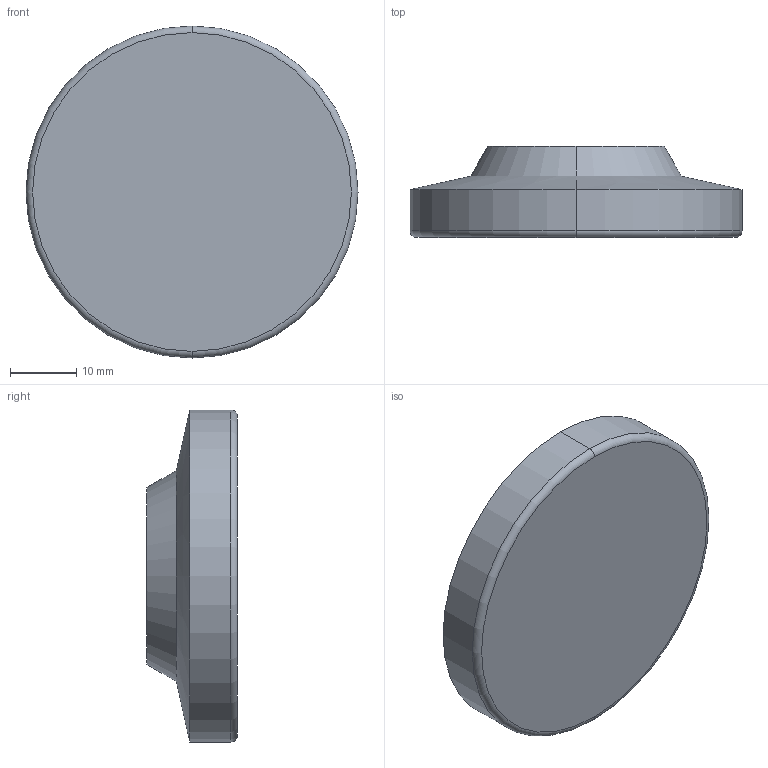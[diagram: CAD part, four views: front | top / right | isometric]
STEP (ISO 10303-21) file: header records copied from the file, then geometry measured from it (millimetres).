
FILE_DESCRIPTION (( 'STEP AP214' ), '1' );
FILE_NAME ('6311.3-50-13,5-N.step', '2023-04-17T05:34:34', ( '' ), ( '' ), 'SwSTEP 2.0', 'SolidWorks 2022', '' );
FILE_SCHEMA (( 'AUTOMOTIVE_DESIGN' ));
Length unit declared in the file: millimetre
Products named in the file (1): 6311.3-50-13,5-N
Bounding box: 50 x 13.7 x 50 mm (x, y, z)
Volume: 18416.7 mm3; surface area: 6711.6 mm2
Topology: 1 solids, 1 shells, 30 faces, 67 edges, 42 vertices
Faces by surface type: cylinder 12, torus 6, plane 6, cone 4, sphere 2
Entity records: 990 total; most frequent: CARTESIAN_POINT 176, DIRECTION 169, ORIENTED_EDGE 134, AXIS2_PLACEMENT_3D 75, EDGE_CURVE 67, CIRCLE 44, VERTEX_POINT 42, EDGE_LOOP 33
